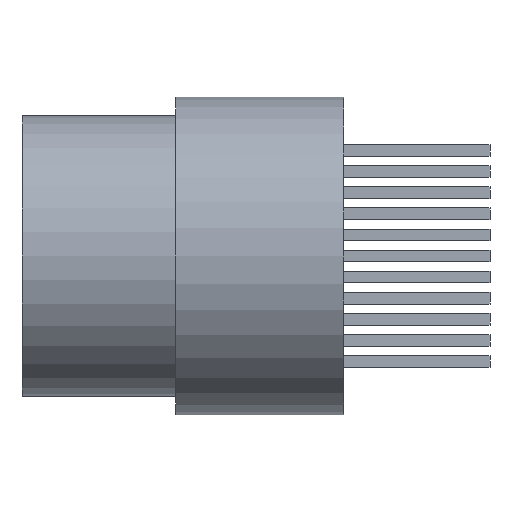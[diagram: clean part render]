
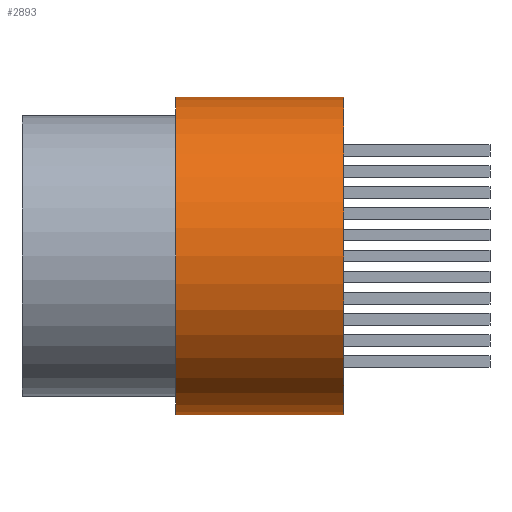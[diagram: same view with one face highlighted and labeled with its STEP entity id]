
A CAD part, front view. The second image highlights one B-rep face of the part: STEP entity #2893.
In plain terms, the highlighted cylindrical face has radius 2.756 mm (diameter 5.512 mm), a partial arc.
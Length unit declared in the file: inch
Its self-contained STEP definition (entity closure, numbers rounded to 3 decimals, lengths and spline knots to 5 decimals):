
#124 = DIRECTION ( 'NONE',  ( 1., 0., 0. ) ) ;
#335 = VECTOR ( 'NONE', #5943, 39.37008 ) ;
#408 = ORIENTED_EDGE ( 'NONE', *, *, #1669, .F. ) ;
#440 = DIRECTION ( 'NONE',  ( 0., 0., 1. ) ) ;
#597 = CYLINDRICAL_SURFACE ( 'NONE', #8136, 0.1085 ) ;
#1343 = EDGE_CURVE ( 'NONE', #5732, #4439, #8387, .T. ) ;
#1669 = EDGE_CURVE ( 'NONE', #4439, #1778, #5095, .T. ) ;
#1718 = CARTESIAN_POINT ( 'NONE',  ( 0.22, 0., -0.1085 ) ) ;
#1773 = VECTOR ( 'NONE', #8002, 39.37008 ) ;
#1778 = VERTEX_POINT ( 'NONE', #2406 ) ;
#2151 = AXIS2_PLACEMENT_3D ( 'NONE', #3485, #6041, #440 ) ;
#2347 = CIRCLE ( 'NONE', #2151, 0.1085 ) ;
#2406 = CARTESIAN_POINT ( 'NONE',  ( 0.105, 0., -0.1085 ) ) ;
#2739 = VERTEX_POINT ( 'NONE', #8500 ) ;
#2754 = AXIS2_PLACEMENT_3D ( 'NONE', #4245, #124, #6996 ) ;
#2893 = ADVANCED_FACE ( 'NONE', ( #5878 ), #597, .T. ) ;
#2992 = ORIENTED_EDGE ( 'NONE', *, *, #1343, .F. ) ;
#3039 = ORIENTED_EDGE ( 'NONE', *, *, #7127, .F. ) ;
#3485 = CARTESIAN_POINT ( 'NONE',  ( 0.105, 0., 0. ) ) ;
#4159 = ORIENTED_EDGE ( 'NONE', *, *, #8542, .T. ) ;
#4178 = CARTESIAN_POINT ( 'NONE',  ( 0.22, 0., 0. ) ) ;
#4245 = CARTESIAN_POINT ( 'NONE',  ( 0.22, 0., 0. ) ) ;
#4439 = VERTEX_POINT ( 'NONE', #1718 ) ;
#4922 = CARTESIAN_POINT ( 'NONE',  ( 0.22, 0., -0.1085 ) ) ;
#5095 = LINE ( 'NONE', #4922, #1773 ) ;
#5732 = VERTEX_POINT ( 'NONE', #7591 ) ;
#5878 = FACE_OUTER_BOUND ( 'NONE', #6950, .T. ) ;
#5943 = DIRECTION ( 'NONE',  ( -1., 0., 0. ) ) ;
#6041 = DIRECTION ( 'NONE',  ( -1., 0., 0. ) ) ;
#6071 = DIRECTION ( 'NONE',  ( 0., 0., 1. ) ) ;
#6950 = EDGE_LOOP ( 'NONE', ( #408, #2992, #4159, #3039 ) ) ;
#6983 = DIRECTION ( 'NONE',  ( -1., 0., 0. ) ) ;
#6996 = DIRECTION ( 'NONE',  ( 0., 0., -1. ) ) ;
#7127 = EDGE_CURVE ( 'NONE', #1778, #2739, #2347, .T. ) ;
#7591 = CARTESIAN_POINT ( 'NONE',  ( 0.22, 0., 0.1085 ) ) ;
#7653 = LINE ( 'NONE', #7960, #335 ) ;
#7960 = CARTESIAN_POINT ( 'NONE',  ( 0.22, 0., 0.1085 ) ) ;
#8002 = DIRECTION ( 'NONE',  ( -1., 0., 0. ) ) ;
#8136 = AXIS2_PLACEMENT_3D ( 'NONE', #4178, #6983, #6071 ) ;
#8387 = CIRCLE ( 'NONE', #2754, 0.1085 ) ;
#8500 = CARTESIAN_POINT ( 'NONE',  ( 0.105, 0., 0.1085 ) ) ;
#8542 = EDGE_CURVE ( 'NONE', #5732, #2739, #7653, .T. ) ;
